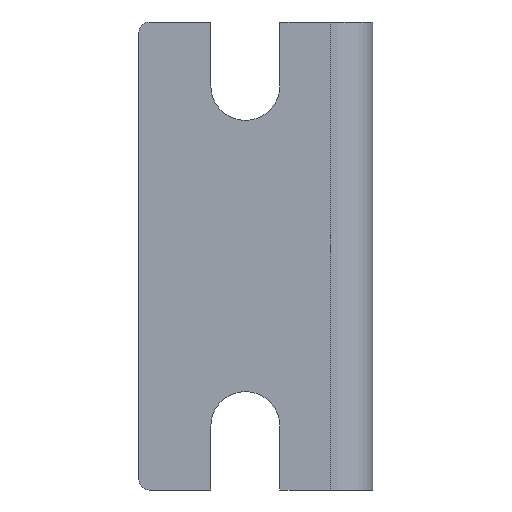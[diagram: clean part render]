
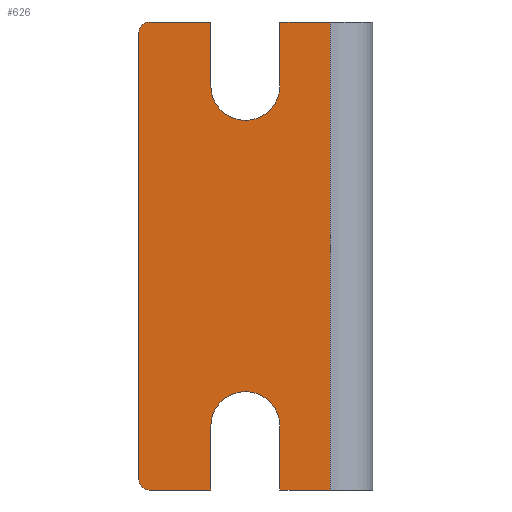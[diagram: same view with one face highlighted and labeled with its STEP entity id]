
A CAD part, front view. The second image highlights one B-rep face of the part: STEP entity #626.
In plain terms, the highlighted planar face has unit normal (0, -1, 0).
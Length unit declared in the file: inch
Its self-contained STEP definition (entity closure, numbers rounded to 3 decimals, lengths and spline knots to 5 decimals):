
#6=DIRECTION('',(1.,0.,0.));
#7=VECTOR('',#6,0.1485);
#8=CARTESIAN_POINT('',(-0.2735,-0.5625,-0.6875));
#9=LINE('',#8,#7);
#27=DIRECTION('',(1.,0.,0.));
#28=VECTOR('',#27,0.181);
#29=CARTESIAN_POINT('',(-0.6575,-0.5625,-0.6875));
#30=LINE('',#29,#28);
#115=CARTESIAN_POINT('',(-0.6575,-0.5625,0.6575));
#116=DIRECTION('',(0.,-1.,0.));
#117=DIRECTION('',(0.,0.,1.));
#118=AXIS2_PLACEMENT_3D('',#115,#116,#117);
#120=DIRECTION('',(0.,0.,-1.));
#121=VECTOR('',#120,0.1875);
#122=CARTESIAN_POINT('',(-0.4765,-0.5625,0.6875));
#123=LINE('',#122,#121);
#124=CARTESIAN_POINT('',(-0.375,-0.5625,0.5));
#125=DIRECTION('',(0.,1.,0.));
#126=DIRECTION('',(1.,0.,0.));
#127=AXIS2_PLACEMENT_3D('',#124,#125,#126);
#129=DIRECTION('',(0.,0.,-1.));
#130=VECTOR('',#129,0.1875);
#131=CARTESIAN_POINT('',(-0.2735,-0.5625,0.6875));
#132=LINE('',#131,#130);
#133=DIRECTION('',(0.,0.,-1.));
#134=VECTOR('',#133,1.375);
#135=CARTESIAN_POINT('',(-0.125,-0.5625,0.6875));
#136=LINE('',#135,#134);
#137=DIRECTION('',(0.,0.,1.));
#138=VECTOR('',#137,0.1875);
#139=CARTESIAN_POINT('',(-0.2735,-0.5625,-0.6875));
#140=LINE('',#139,#138);
#141=CARTESIAN_POINT('',(-0.375,-0.5625,-0.5));
#142=DIRECTION('',(0.,1.,0.));
#143=DIRECTION('',(-1.,0.,0.));
#144=AXIS2_PLACEMENT_3D('',#141,#142,#143);
#146=DIRECTION('',(0.,0.,1.));
#147=VECTOR('',#146,0.1875);
#148=CARTESIAN_POINT('',(-0.4765,-0.5625,-0.6875));
#149=LINE('',#148,#147);
#150=CARTESIAN_POINT('',(-0.6575,-0.5625,-0.6575));
#151=DIRECTION('',(0.,-1.,0.));
#152=DIRECTION('',(-1.,0.,0.));
#153=AXIS2_PLACEMENT_3D('',#150,#151,#152);
#155=DIRECTION('',(0.,0.,1.));
#156=VECTOR('',#155,1.315);
#157=CARTESIAN_POINT('',(-0.6875,-0.5625,-0.6575));
#158=LINE('',#157,#156);
#176=DIRECTION('',(1.,0.,0.));
#177=VECTOR('',#176,0.1485);
#178=CARTESIAN_POINT('',(-0.2735,-0.5625,0.6875));
#179=LINE('',#178,#177);
#192=DIRECTION('',(1.,0.,0.));
#193=VECTOR('',#192,0.181);
#194=CARTESIAN_POINT('',(-0.6575,-0.5625,0.6875));
#195=LINE('',#194,#193);
#368=CARTESIAN_POINT('',(-0.125,-0.5625,0.6875));
#369=CARTESIAN_POINT('',(-0.125,-0.5625,-0.6875));
#370=VERTEX_POINT('',#368);
#371=VERTEX_POINT('',#369);
#396=CARTESIAN_POINT('',(-0.2735,-0.5625,-0.6875));
#398=VERTEX_POINT('',#396);
#400=CARTESIAN_POINT('',(-0.4765,-0.5625,-0.6875));
#402=VERTEX_POINT('',#400);
#404=CARTESIAN_POINT('',(-0.4765,-0.5625,0.6875));
#406=VERTEX_POINT('',#404);
#408=CARTESIAN_POINT('',(-0.2735,-0.5625,0.6875));
#410=VERTEX_POINT('',#408);
#420=CARTESIAN_POINT('',(-0.2735,-0.5625,-0.5));
#421=VERTEX_POINT('',#420);
#422=CARTESIAN_POINT('',(-0.4765,-0.5625,-0.5));
#423=VERTEX_POINT('',#422);
#424=CARTESIAN_POINT('',(-0.2735,-0.5625,0.5));
#425=CARTESIAN_POINT('',(-0.4765,-0.5625,0.5));
#426=VERTEX_POINT('',#424);
#427=VERTEX_POINT('',#425);
#464=CARTESIAN_POINT('',(-0.6575,-0.5625,0.6875));
#465=CARTESIAN_POINT('',(-0.6875,-0.5625,0.6575));
#466=VERTEX_POINT('',#464);
#467=VERTEX_POINT('',#465);
#476=CARTESIAN_POINT('',(-0.6875,-0.5625,-0.6575));
#477=VERTEX_POINT('',#476);
#478=CARTESIAN_POINT('',(-0.6575,-0.5625,-0.6875));
#479=VERTEX_POINT('',#478);
#595=CARTESIAN_POINT('',(-0.6875,-0.5625,-0.6875));
#596=DIRECTION('',(0.,-1.,0.));
#597=DIRECTION('',(1.,0.,0.));
#598=AXIS2_PLACEMENT_3D('',#595,#596,#597);
#599=PLANE('',#598);
#600=ORIENTED_EDGE('',*,*,#585,.F.);
#602=ORIENTED_EDGE('',*,*,#601,.T.);
#604=ORIENTED_EDGE('',*,*,#603,.T.);
#606=ORIENTED_EDGE('',*,*,#605,.F.);
#608=ORIENTED_EDGE('',*,*,#607,.F.);
#610=ORIENTED_EDGE('',*,*,#609,.T.);
#612=ORIENTED_EDGE('',*,*,#611,.T.);
#613=ORIENTED_EDGE('',*,*,#487,.F.);
#614=ORIENTED_EDGE('',*,*,#526,.T.);
#616=ORIENTED_EDGE('',*,*,#615,.F.);
#618=ORIENTED_EDGE('',*,*,#617,.F.);
#619=ORIENTED_EDGE('',*,*,#507,.F.);
#621=ORIENTED_EDGE('',*,*,#620,.F.);
#623=ORIENTED_EDGE('',*,*,#622,.T.);
#624=EDGE_LOOP('',(#600,#602,#604,#606,#608,#610,#612,#613,#614,#616,#618,#619,
#621,#623));
#625=FACE_OUTER_BOUND('',#624,.F.);
#626=ADVANCED_FACE('',(#625),#599,.T.);
#119=CIRCLE('',#118,0.03);
#128=CIRCLE('',#127,0.1015);
#145=CIRCLE('',#144,0.1015);
#154=CIRCLE('',#153,0.03);
#487=EDGE_CURVE('',#398,#371,#9,.T.);
#507=EDGE_CURVE('',#479,#402,#30,.T.);
#526=EDGE_CURVE('',#398,#421,#140,.T.);
#585=EDGE_CURVE('',#466,#467,#119,.T.);
#601=EDGE_CURVE('',#466,#406,#195,.T.);
#603=EDGE_CURVE('',#406,#427,#123,.T.);
#605=EDGE_CURVE('',#426,#427,#128,.T.);
#607=EDGE_CURVE('',#410,#426,#132,.T.);
#609=EDGE_CURVE('',#410,#370,#179,.T.);
#611=EDGE_CURVE('',#370,#371,#136,.T.);
#615=EDGE_CURVE('',#423,#421,#145,.T.);
#617=EDGE_CURVE('',#402,#423,#149,.T.);
#620=EDGE_CURVE('',#477,#479,#154,.T.);
#622=EDGE_CURVE('',#477,#467,#158,.T.);
